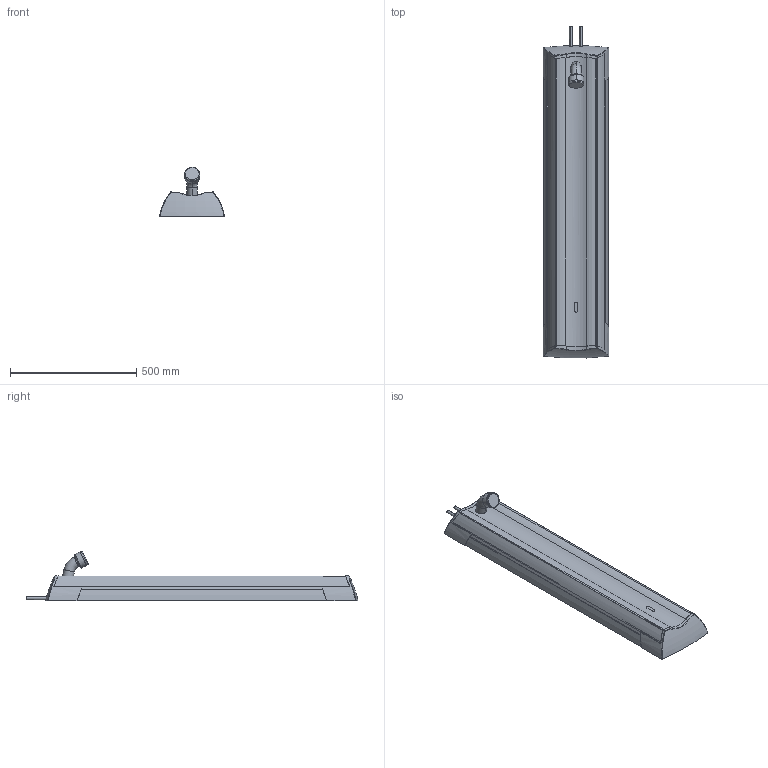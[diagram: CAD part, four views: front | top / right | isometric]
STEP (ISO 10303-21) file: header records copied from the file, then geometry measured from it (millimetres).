
FILE_DESCRIPTION (( 'STEP AP203' ), '1' );
FILE_NAME ('6661S+6661STX.STEP', '2018-07-11T04:22:56', ( '' ), ( '' ), 'SwSTEP 2.0', 'SolidWorks 2016', '' );
FILE_SCHEMA (( 'CONFIG_CONTROL_DESIGN' ));
Length unit declared in the file: millimetre
Products named in the file (1): 6661S+6661STX
Bounding box: 257.76 x 1313.02 x 196.6 mm (x, y, z)
Surface area: 915032.6 mm2 (no closed solid volume)
Topology: 0 solids, 1 shells, 138 faces, 384 edges, 246 vertices
Faces by surface type: plane 51, cylinder 45, sphere 18, bspline 14, torus 10
Entity records: 4876 total; most frequent: CARTESIAN_POINT 2038, ORIENTED_EDGE 636, DIRECTION 506, EDGE_CURVE 318, VERTEX_POINT 202, AXIS2_PLACEMENT_3D 171, LINE 164, VECTOR 164
